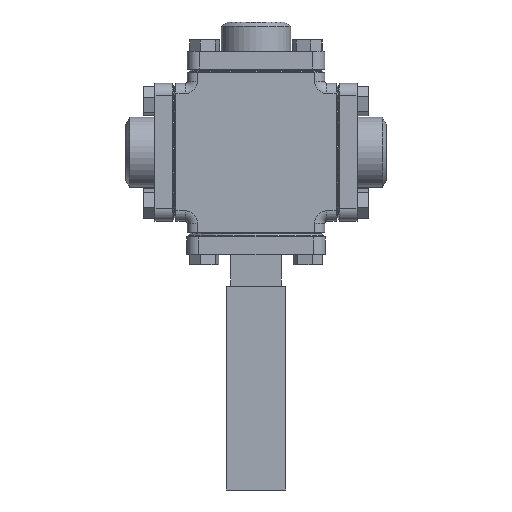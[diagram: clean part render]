
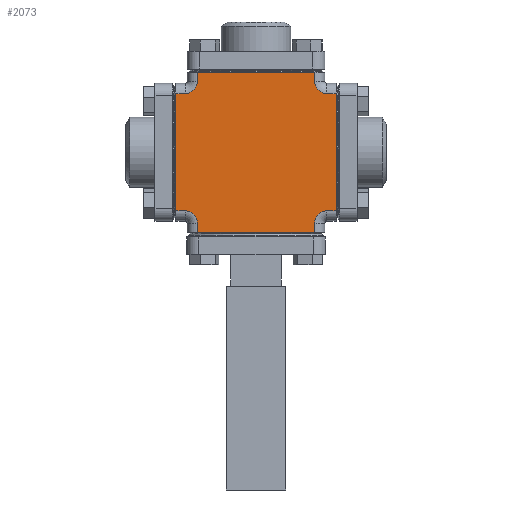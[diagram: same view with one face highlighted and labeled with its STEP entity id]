
A CAD part, front view. The second image highlights one B-rep face of the part: STEP entity #2073.
In plain terms, the highlighted planar face has unit normal (0, -1, 0).
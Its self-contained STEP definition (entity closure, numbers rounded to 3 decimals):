
#97 = CARTESIAN_POINT ( 'NONE',  ( -28.75, -33.75, -39.25 ) ) ;
#111 = CARTESIAN_POINT ( 'NONE',  ( -39.25, -33.75, -28.75 ) ) ;
#156 = CARTESIAN_POINT ( 'NONE',  ( -34.75, -33.75, -28.75 ) ) ;
#158 = CARTESIAN_POINT ( 'NONE',  ( -28.75, -33.75, -34.75 ) ) ;
#175 = CARTESIAN_POINT ( 'NONE',  ( 28.75, -33.75, 39.25 ) ) ;
#180 = CARTESIAN_POINT ( 'NONE',  ( 39.25, -33.75, -28.75 ) ) ;
#181 = CARTESIAN_POINT ( 'NONE',  ( -28.75, -33.75, 39.25 ) ) ;
#182 = CARTESIAN_POINT ( 'NONE',  ( 39.25, -33.75, 28.75 ) ) ;
#400 = CARTESIAN_POINT ( 'NONE',  ( 28.75, -33.75, -34.75 ) ) ;
#404 = CARTESIAN_POINT ( 'NONE',  ( 34.75, -33.75, 28.75 ) ) ;
#407 = CARTESIAN_POINT ( 'NONE',  ( 34.75, -33.75, -28.75 ) ) ;
#451 = CARTESIAN_POINT ( 'NONE',  ( 28.75, -33.75, 34.75 ) ) ;
#453 = CARTESIAN_POINT ( 'NONE',  ( -39.25, -33.75, 28.75 ) ) ;
#455 = CARTESIAN_POINT ( 'NONE',  ( -28.75, -33.75, 34.75 ) ) ;
#456 = CARTESIAN_POINT ( 'NONE',  ( -34.75, -33.75, 28.75 ) ) ;
#1630 = EDGE_CURVE ( 'NONE', #9801, #10061, #8656, .T. ) ;
#1638 = EDGE_CURVE ( 'NONE', #10075, #10537, #8667, .T. ) ;
#1646 = EDGE_CURVE ( 'NONE', #10250, #10244, #8681, .T. ) ;
#1656 = EDGE_CURVE ( 'NONE', #10540, #10537, #8704, .T. ) ;
#1662 = EDGE_CURVE ( 'NONE', #10251, #10249, #8708, .T. ) ;
#1665 = EDGE_CURVE ( 'NONE', #10227, #10061, #8696, .T. ) ;
#1666 = EDGE_CURVE ( 'NONE', #10539, #10540, #8722, .T. ) ;
#1667 = EDGE_CURVE ( 'NONE', #10535, #10244, #8715, .T. ) ;
#1668 = EDGE_CURVE ( 'NONE', #10488, #10535, #8724, .T. ) ;
#1669 = EDGE_CURVE ( 'NONE', #10250, #10539, #8713, .T. ) ;
#1670 = EDGE_CURVE ( 'NONE', #10075, #10225, #8725, .T. ) ;
#1671 = EDGE_CURVE ( 'NONE', #10491, #10249, #8727, .T. ) ;
#1672 = EDGE_CURVE ( 'NONE', #10225, #10227, #8731, .T. ) ;
#1673 = EDGE_CURVE ( 'NONE', #9801, #10484, #8720, .T. ) ;
#1675 = EDGE_CURVE ( 'NONE', #10484, #10491, #8736, .T. ) ;
#1676 = EDGE_CURVE ( 'NONE', #10251, #10488, #8729, .T. ) ;
#2073 = ADVANCED_FACE ( 'NONE', ( #9369 ), #6957, .F. ) ;
#3235 = AXIS2_PLACEMENT_3D ( 'NONE', #6003, #5993, #5992 ) ;
#3236 = AXIS2_PLACEMENT_3D ( 'NONE', #6037, #6023, #6021 ) ;
#3237 = AXIS2_PLACEMENT_3D ( 'NONE', #6034, #6016, #6015 ) ;
#3238 = AXIS2_PLACEMENT_3D ( 'NONE', #6025, #6002, #6001 ) ;
#3500 = EDGE_LOOP ( 'NONE', ( #3703, #3704, #3705, #3706, #3707, #3708, #3709, #3710, #3711, #3712, #3713, #3714, #3715, #3716, #3717, #3718 ) ) ;
#3703 = ORIENTED_EDGE ( 'NONE', *, *, #1668, .T. ) ;
#3704 = ORIENTED_EDGE ( 'NONE', *, *, #1667, .T. ) ;
#3705 = ORIENTED_EDGE ( 'NONE', *, *, #1646, .F. ) ;
#3706 = ORIENTED_EDGE ( 'NONE', *, *, #1669, .T. ) ;
#3707 = ORIENTED_EDGE ( 'NONE', *, *, #1666, .T. ) ;
#3708 = ORIENTED_EDGE ( 'NONE', *, *, #1656, .T. ) ;
#3709 = ORIENTED_EDGE ( 'NONE', *, *, #1638, .F. ) ;
#3710 = ORIENTED_EDGE ( 'NONE', *, *, #1670, .T. ) ;
#3711 = ORIENTED_EDGE ( 'NONE', *, *, #1672, .T. ) ;
#3712 = ORIENTED_EDGE ( 'NONE', *, *, #1665, .T. ) ;
#3713 = ORIENTED_EDGE ( 'NONE', *, *, #1630, .F. ) ;
#3714 = ORIENTED_EDGE ( 'NONE', *, *, #1673, .T. ) ;
#3715 = ORIENTED_EDGE ( 'NONE', *, *, #1675, .T. ) ;
#3716 = ORIENTED_EDGE ( 'NONE', *, *, #1671, .T. ) ;
#3717 = ORIENTED_EDGE ( 'NONE', *, *, #1662, .F. ) ;
#3718 = ORIENTED_EDGE ( 'NONE', *, *, #1676, .T. ) ;
#5715 = DIRECTION ( 'NONE',  ( -1., 0., 0. ) ) ;
#5719 = CARTESIAN_POINT ( 'NONE',  ( 39.25, -33.75, 28.75 ) ) ;
#5789 = DIRECTION ( 'NONE',  ( 1., 0., 0. ) ) ;
#5790 = CARTESIAN_POINT ( 'NONE',  ( -33.75, -33.75, 39.25 ) ) ;
#5861 = DIRECTION ( 'NONE',  ( 0., 0., 1. ) ) ;
#5865 = CARTESIAN_POINT ( 'NONE',  ( -39.25, -33.75, -33.75 ) ) ;
#5931 = DIRECTION ( 'NONE',  ( -1., 0., 0. ) ) ;
#5934 = CARTESIAN_POINT ( 'NONE',  ( 33.75, -33.75, -39.25 ) ) ;
#5990 = DIRECTION ( 'NONE',  ( -1., 0., 0. ) ) ;
#5991 = CARTESIAN_POINT ( 'NONE',  ( 39.25, -33.75, 28.75 ) ) ;
#5992 = DIRECTION ( 'NONE',  ( 0., 0., 1. ) ) ;
#5993 = DIRECTION ( 'NONE',  ( 0., 1., 0. ) ) ;
#5998 = DIRECTION ( 'NONE',  ( 0., 0., 1. ) ) ;
#5999 = CARTESIAN_POINT ( 'NONE',  ( 28.75, -33.75, 33.75 ) ) ;
#6001 = DIRECTION ( 'NONE',  ( 0., 0., 1. ) ) ;
#6002 = DIRECTION ( 'NONE',  ( 0., 1., 0. ) ) ;
#6003 = CARTESIAN_POINT ( 'NONE',  ( 34.75, -33.75, -34.75 ) ) ;
#6004 = DIRECTION ( 'NONE',  ( 1., 0., 0. ) ) ;
#6006 = CARTESIAN_POINT ( 'NONE',  ( 39.25, -33.75, -28.75 ) ) ;
#6008 = DIRECTION ( 'NONE',  ( 1., 0., 0. ) ) ;
#6010 = CARTESIAN_POINT ( 'NONE',  ( 39.25, -33.75, -28.75 ) ) ;
#6011 = DIRECTION ( 'NONE',  ( 0., 0., -1. ) ) ;
#6012 = CARTESIAN_POINT ( 'NONE',  ( -28.75, -33.75, 33.75 ) ) ;
#6015 = DIRECTION ( 'NONE',  ( 0., 0., 1. ) ) ;
#6016 = DIRECTION ( 'NONE',  ( 0., 1., 0. ) ) ;
#6019 = DIRECTION ( 'NONE',  ( 0., 0., 1. ) ) ;
#6020 = CARTESIAN_POINT ( 'NONE',  ( 28.75, -33.75, 33.75 ) ) ;
#6021 = DIRECTION ( 'NONE',  ( 0., 0., 1. ) ) ;
#6023 = DIRECTION ( 'NONE',  ( 0., 1., 0. ) ) ;
#6025 = CARTESIAN_POINT ( 'NONE',  ( -34.75, -33.75, -34.75 ) ) ;
#6026 = DIRECTION ( 'NONE',  ( 0., 0., -1. ) ) ;
#6027 = CARTESIAN_POINT ( 'NONE',  ( -28.75, -33.75, 33.75 ) ) ;
#6034 = CARTESIAN_POINT ( 'NONE',  ( 34.75, -33.75, 34.75 ) ) ;
#6037 = CARTESIAN_POINT ( 'NONE',  ( -34.75, -33.75, 34.75 ) ) ;
#6038 = DIRECTION ( 'NONE',  ( 0., 0., -1. ) ) ;
#6039 = CARTESIAN_POINT ( 'NONE',  ( 39.25, -33.75, 33.75 ) ) ;
#6957 = PLANE ( 'NONE',  #8182 ) ;
#6958 = CARTESIAN_POINT ( 'NONE',  ( 39.25, -33.75, 33.75 ) ) ;
#6967 = DIRECTION ( 'NONE',  ( 0., 1., 0. ) ) ;
#6968 = DIRECTION ( 'NONE',  ( 0., 0., 1. ) ) ;
#8182 = AXIS2_PLACEMENT_3D ( 'NONE', #6958, #6967, #6968 ) ;
#8656 = LINE ( 'NONE', #5934, #8659 ) ;
#8659 = VECTOR ( 'NONE', #5931, 1000. ) ;
#8667 = LINE ( 'NONE', #5865, #8673 ) ;
#8673 = VECTOR ( 'NONE', #5861, 1000. ) ;
#8681 = LINE ( 'NONE', #5790, #8685 ) ;
#8685 = VECTOR ( 'NONE', #5789, 1000. ) ;
#8696 = LINE ( 'NONE', #6027, #8716 ) ;
#8704 = LINE ( 'NONE', #5719, #8705 ) ;
#8705 = VECTOR ( 'NONE', #5715, 1000. ) ;
#8708 = LINE ( 'NONE', #6039, #8711 ) ;
#8711 = VECTOR ( 'NONE', #6038, 1000. ) ;
#8713 = LINE ( 'NONE', #6012, #8721 ) ;
#8715 = LINE ( 'NONE', #6020, #8718 ) ;
#8716 = VECTOR ( 'NONE', #6026, 1000. ) ;
#8718 = VECTOR ( 'NONE', #6019, 1000. ) ;
#8720 = LINE ( 'NONE', #5999, #8723 ) ;
#8721 = VECTOR ( 'NONE', #6011, 1000. ) ;
#8722 = CIRCLE ( 'NONE', #3236, 6. ) ;
#8723 = VECTOR ( 'NONE', #5998, 1000. ) ;
#8724 = CIRCLE ( 'NONE', #3237, 6. ) ;
#8725 = LINE ( 'NONE', #6010, #8726 ) ;
#8726 = VECTOR ( 'NONE', #6008, 1000. ) ;
#8727 = LINE ( 'NONE', #6006, #8728 ) ;
#8728 = VECTOR ( 'NONE', #6004, 1000. ) ;
#8729 = LINE ( 'NONE', #5991, #8733 ) ;
#8731 = CIRCLE ( 'NONE', #3238, 6. ) ;
#8733 = VECTOR ( 'NONE', #5990, 1000. ) ;
#8736 = CIRCLE ( 'NONE', #3235, 6. ) ;
#9369 = FACE_OUTER_BOUND ( 'NONE', #3500, .T. ) ;
#9801 = VERTEX_POINT ( 'NONE', #12680 ) ;
#10061 = VERTEX_POINT ( 'NONE', #97 ) ;
#10075 = VERTEX_POINT ( 'NONE', #111 ) ;
#10225 = VERTEX_POINT ( 'NONE', #156 ) ;
#10227 = VERTEX_POINT ( 'NONE', #158 ) ;
#10244 = VERTEX_POINT ( 'NONE', #175 ) ;
#10249 = VERTEX_POINT ( 'NONE', #180 ) ;
#10250 = VERTEX_POINT ( 'NONE', #181 ) ;
#10251 = VERTEX_POINT ( 'NONE', #182 ) ;
#10484 = VERTEX_POINT ( 'NONE', #400 ) ;
#10488 = VERTEX_POINT ( 'NONE', #404 ) ;
#10491 = VERTEX_POINT ( 'NONE', #407 ) ;
#10535 = VERTEX_POINT ( 'NONE', #451 ) ;
#10537 = VERTEX_POINT ( 'NONE', #453 ) ;
#10539 = VERTEX_POINT ( 'NONE', #455 ) ;
#10540 = VERTEX_POINT ( 'NONE', #456 ) ;
#12680 = CARTESIAN_POINT ( 'NONE',  ( 28.75, -33.75, -39.25 ) ) ;
